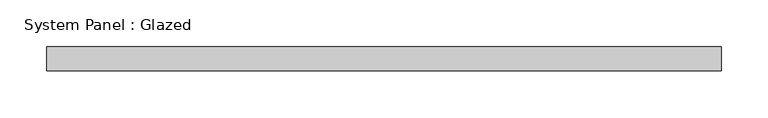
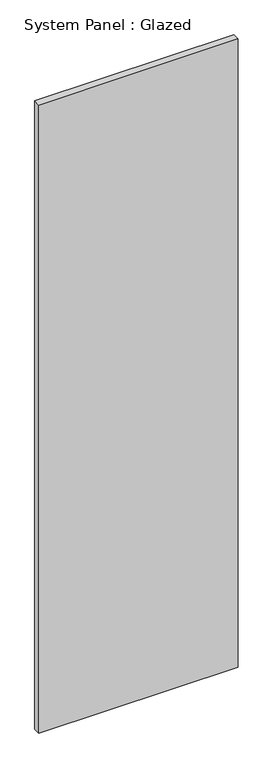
"""IFC4 building model written with IfcOpenShell, lengths in millimetres: plate geometry, System Panel : Glazed."""

import ifcopenshell
import ifcopenshell.guid

model = None  # the IFC model being written
_history = None  # IfcOwnerHistory: only IFC2X3 demands one
_inside = {}  # id of a spatial element -> (the spatial element, [elements in it])
_under = {}  # id of a project, library or spatial element -> (it, [spatial elements below it])
_declared = {}  # id of a project -> (the project, [libraries it declares])
_typed = {}  # id of a type object -> (the type object, [elements of that type])
_made_of = {}  # id of a material, layer set ... -> (it, [elements and type objects made of it])


def new_model(schema):
    """Start an empty IFC model of exactly this schema.

    Asked for "IFC4X3", IfcOpenShell would pick the latest addendum, in which some entities
    have other attributes; the version numbers below select the first issue.
    IFC2X3 requires an IfcOwnerHistory on every rooted entity: one is made here for all.
    """
    global model, _history
    if schema == "IFC4X3":
        model = ifcopenshell.file(schema_version=(4, 3, 0, 0))
    else:
        model = ifcopenshell.file(schema=schema)
    _inside.clear()
    _under.clear()
    _declared.clear()
    _typed.clear()
    _made_of.clear()
    _history = None
    if model.schema == "IFC2X3":
        org = make("IfcOrganization", Name="unknown")
        user = make(
            "IfcPersonAndOrganization",
            ThePerson=make("IfcPerson", FamilyName="unknown"),
            TheOrganization=org,
        )
        app = make(
            "IfcApplication",
            ApplicationDeveloper=org,
            Version="unknown",
            ApplicationFullName="unknown",
            ApplicationIdentifier="unknown",
        )
        _history = make(
            "IfcOwnerHistory",
            OwningUser=user,
            OwningApplication=app,
            ChangeAction="ADDED",
            CreationDate=0,
        )
    return model


def make(cls, **values):
    """One entity of the class cls with the attributes given. An attribute that is None is left unset."""
    return model.create_entity(
        cls, **{name: value for name, value in values.items() if value is not None}
    )


def rooted(cls, **values):
    """An entity with a GlobalId (a new one), such as an element, a storey or a relation."""
    return make(cls, GlobalId=ifcopenshell.guid.new(), OwnerHistory=_history, **values)


def si_unit(unit_type, name, prefix=None):
    """IfcSIUnit, for example si_unit("LENGTHUNIT", "METRE", prefix="MILLI")."""
    return make("IfcSIUnit", UnitType=unit_type, Prefix=prefix, Name=name)


def assignment(units):
    """IfcUnitAssignment: the units of a project."""
    return None if units is None else make("IfcUnitAssignment", Units=units)


def point(xyz):
    """IfcCartesianPoint."""
    return None if xyz is None else make("IfcCartesianPoint", Coordinates=xyz)


def direction(xyz):
    """IfcDirection."""
    return None if xyz is None else make("IfcDirection", DirectionRatios=xyz)


def frame(location, z_axis=None, x_axis=None):
    """IfcAxis2Placement3D, a coordinate frame: its origin and axes. An axis left out is left unset."""
    return make(
        "IfcAxis2Placement3D",
        Location=point(location),
        Axis=direction(z_axis),
        RefDirection=direction(x_axis),
    )


def origin():
    """The frame at (0, 0, 0) with its axes left unset."""
    return frame((0.0, 0.0, 0.0))


def origin_with_axes():
    """The frame at (0, 0, 0) with the z axis (0, 0, 1) and the x axis (1, 0, 0) written out."""
    return frame((0.0, 0.0, 0.0), z_axis=(0.0, 0.0, 1.0), x_axis=(1.0, 0.0, 0.0))


def place(relative_to, where):
    """IfcLocalPlacement: puts the frame where relative to a parent placement (None: the world)."""
    return make(
        "IfcLocalPlacement", PlacementRelTo=relative_to, RelativePlacement=where
    )


def context(
    kind, dimensions, precision=None, world=None, true_north=None, identifier=None
):
    """IfcGeometricRepresentationContext, for example the 3D "Model" context."""
    return make(
        "IfcGeometricRepresentationContext",
        ContextIdentifier=identifier,
        ContextType=kind,
        CoordinateSpaceDimension=dimensions,
        Precision=precision,
        WorldCoordinateSystem=world,
        TrueNorth=true_north,
    )


def project(units=None, contexts=None):
    """IfcProject with its units and contexts."""
    return rooted(
        "IfcProject",
        Name="project",
        RepresentationContexts=contexts,
        UnitsInContext=assignment(units),
    )


def spatial(cls, under=None, at=None, **own):
    """A site, building, storey or space (cls), placed at a placement, below another one or the project."""
    s = rooted(cls, ObjectPlacement=at, **own)
    if under is not None:
        _under.setdefault(under.id(), (under, []))[1].append(s)
    return s


def polyline(points):
    """IfcPolyline through the points."""
    return make("IfcPolyline", Points=[point(p) for p in points])


def outline(outer, holes=None, kind="AREA"):
    """IfcArbitraryClosedProfileDef: a profile drawn as a closed curve; with holes, ...WithVoids."""
    if holes is None:
        return make("IfcArbitraryClosedProfileDef", ProfileType=kind, OuterCurve=outer)
    return make(
        "IfcArbitraryProfileDefWithVoids",
        ProfileType=kind,
        OuterCurve=outer,
        InnerCurves=holes,
    )


def extrude(swept, where, along, depth):
    """IfcExtrudedAreaSolid: the profile swept, set in the frame where, extruded along a direction by depth."""
    return make(
        "IfcExtrudedAreaSolid",
        SweptArea=swept,
        Position=where,
        ExtrudedDirection=direction(along),
        Depth=depth,
    )


def shape(context_of_items, identifier, shape_type, items):
    """IfcShapeRepresentation: the items that make up one representation, for example the "Body"."""
    return make(
        "IfcShapeRepresentation",
        ContextOfItems=context_of_items,
        RepresentationIdentifier=identifier,
        RepresentationType=shape_type,
        Items=items,
    )


def source(mapping_origin, context_of_items, identifier, shape_type, items):
    """IfcRepresentationMap: a shape defined once, which mapped items show again and again."""
    return make(
        "IfcRepresentationMap",
        MappingOrigin=mapping_origin,
        MappedRepresentation=shape(context_of_items, identifier, shape_type, items),
    )


def transform(
    local_origin,
    x_axis=None,
    y_axis=None,
    z_axis=None,
    scale=None,
    scale2=None,
    scale3=None,
    uniform=True,
):
    """IfcCartesianTransformationOperator3D, or its non-uniform kind. x_axis, y_axis, z_axis: its Axis1, 2, 3."""
    if uniform:
        return make(
            "IfcCartesianTransformationOperator3D",
            Axis1=direction(x_axis),
            Axis2=direction(y_axis),
            LocalOrigin=point(local_origin),
            Scale=scale,
            Axis3=direction(z_axis),
        )
    return make(
        "IfcCartesianTransformationOperator3DnonUniform",
        Axis1=direction(x_axis),
        Axis2=direction(y_axis),
        LocalOrigin=point(local_origin),
        Scale=scale,
        Axis3=direction(z_axis),
        Scale2=scale2,
        Scale3=scale3,
    )


def mapped(mapping_source, mapping_target):
    """IfcMappedItem: shows the shape of a source again, moved by a transform."""
    return make(
        "IfcMappedItem", MappingSource=mapping_source, MappingTarget=mapping_target
    )


def made_of(thing, what):
    """Note that an element or type object is made of a material, layer set ...; save() writes the relation."""
    if what is not None:
        _made_of.setdefault(what.id(), (what, []))[1].append(thing)
    return thing


def element(
    cls,
    number,
    at=None,
    inside=None,
    cuts=None,
    type_object=None,
    material=None,
    context=None,
    identifier="Body",
    shape_type=None,
    held_by="IfcProductDefinitionShape",
    body=None,
    shapes=None,
    **own,
):
    """One element of the class cls, such as IfcWall. Its Tag is "e" and its number.

    at: its placement. inside: the storey or other place that contains it. cuts: it is an
    opening in that element (IfcRelVoidsElement). A single representation is given by context,
    identifier, shape_type and body (its items); several are given by shapes. held_by: the class
    of the entity that holds the representations. save() writes the other relations.
    """
    e = rooted(cls, Tag="e%d" % number, ObjectPlacement=at, **own)
    if body is not None:
        shapes = [shape(context, identifier, shape_type, body)]
    if shapes is not None:
        e.Representation = make(held_by, Representations=shapes)
    if inside is not None:
        _inside.setdefault(inside.id(), (inside, []))[1].append(e)
    if cuts is not None:
        rooted(
            "IfcRelVoidsElement", RelatingBuildingElement=cuts, RelatedOpeningElement=e
        )
    if type_object is not None:
        _typed.setdefault(type_object.id(), (type_object, []))[1].append(e)
    return made_of(e, material)


def aggregate(whole, parts):
    """IfcRelAggregates: a whole, such as a stair, and the parts it consists of."""
    return rooted("IfcRelAggregates", RelatingObject=whole, RelatedObjects=parts)


def save(model, path):
    """Write the relations noted so far, then the file.

    IfcRelAggregates (storeys below a building ...), IfcRelContainedInSpatialStructure (elements
    in a storey), IfcRelDefinesByType, IfcRelAssociatesMaterial and IfcRelDeclares: one each for
    every whole, place, type object, material and project.
    """
    for whole, parts in _under.values():
        aggregate(whole, parts)
    for where, things in _inside.values():
        rooted(
            "IfcRelContainedInSpatialStructure",
            RelatedElements=things,
            RelatingStructure=where,
        )
    for kind, things in _typed.values():
        rooted("IfcRelDefinesByType", RelatedObjects=things, RelatingType=kind)
    for what, things in _made_of.values():
        rooted("IfcRelAssociatesMaterial", RelatedObjects=things, RelatingMaterial=what)
    for by, libraries in _declared.values():
        rooted("IfcRelDeclares", RelatingContext=by, RelatedDefinitions=libraries)
    model.write(path)


def system_panel_glazed_dff9bb5a(model_context):
    return source(origin(), model_context, "Body", "SweptSolid", [
        extrude(outline(polyline([(360.5609374, -44.45), (-360.5609374, -44.45), (-360.5609374, -19.05), (360.5609374, -19.05), (360.5609374, -44.45)])), origin_with_axes(), (0.0, 0.0, 1.0), 2400.3),
    ])


if __name__ == "__main__":
    model = new_model("IFC4")
    model_context = context("Model", 3, world=origin())
    ifc_project = project(units=[si_unit("LENGTHUNIT", "METRE", prefix="MILLI")], contexts=[model_context])
    site = spatial("IfcSite", under=ifc_project)
    building = spatial("IfcBuilding", under=site)
    placement = place(None, origin())
    system_panel_glazed_shape = system_panel_glazed_dff9bb5a(model_context)
    element("IfcPlate", 1, ObjectType="System Panel : Glazed", at=placement, inside=building, context=model_context, shape_type="MappedRepresentation", body=[
        mapped(system_panel_glazed_shape, transform((0.0, 0.0, 0.0), x_axis=(1.0, 0.0, 0.0), y_axis=(0.0, 1.0, 0.0), z_axis=(0.0, 0.0, 1.0))),
    ])
    save(model, "model.ifc")
